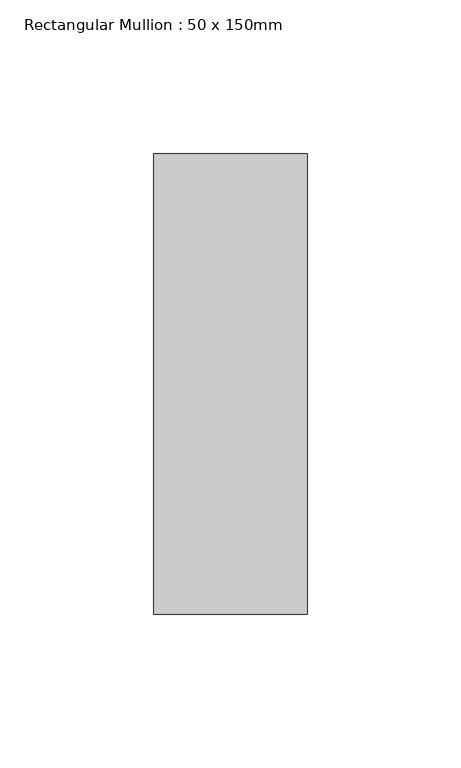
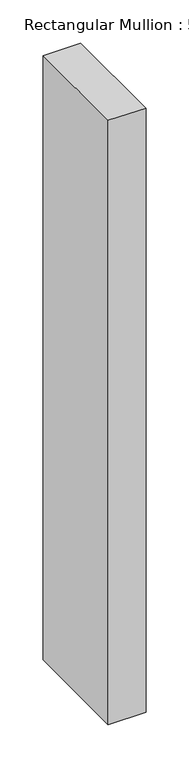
"""IFC4 building model written with IfcOpenShell, lengths in millimetres: member geometry, Rectangular Mullion : 50 x 150mm."""

from ifc_helpers import new_model, si_unit, frame, origin, place, context, project, spatial, polyline, outline, extrude, source, transform, mapped, element, save


def rectangular_mullion_50_x_150mm_b8505a44(model_context):
    return source(origin(), model_context, "Body", "SweptSolid", [
        extrude(outline(polyline([(0.0, 75.0), (0.0, -75.0), (-50.0, -75.0), (-50.0, 75.0), (0.0, 75.0)])), frame((0.0, 0.0, -849.9999998), z_axis=(0.0, 0.0, 1.0), x_axis=(1.0, 0.0, 0.0)), (0.0, 0.0, 1.0), 849.9999998),
    ])


if __name__ == "__main__":
    model = new_model("IFC4")
    model_context = context("Model", 3, world=origin())
    ifc_project = project(units=[si_unit("LENGTHUNIT", "METRE", prefix="MILLI")], contexts=[model_context])
    site = spatial("IfcSite", under=ifc_project)
    building = spatial("IfcBuilding", under=site)
    placement = place(None, origin())
    rectangular_mullion_50_x_150mm_shape = rectangular_mullion_50_x_150mm_b8505a44(model_context)
    element("IfcMember", 1, ObjectType="Rectangular Mullion : 50 x 150mm", at=placement, inside=building, context=model_context, shape_type="MappedRepresentation", body=[
        mapped(rectangular_mullion_50_x_150mm_shape, transform((0.0, 0.0, 0.0), x_axis=(1.0, 0.0, 0.0), y_axis=(0.0, 1.0, 0.0), z_axis=(0.0, 0.0, 1.0))),
    ])
    save(model, "model.ifc")
